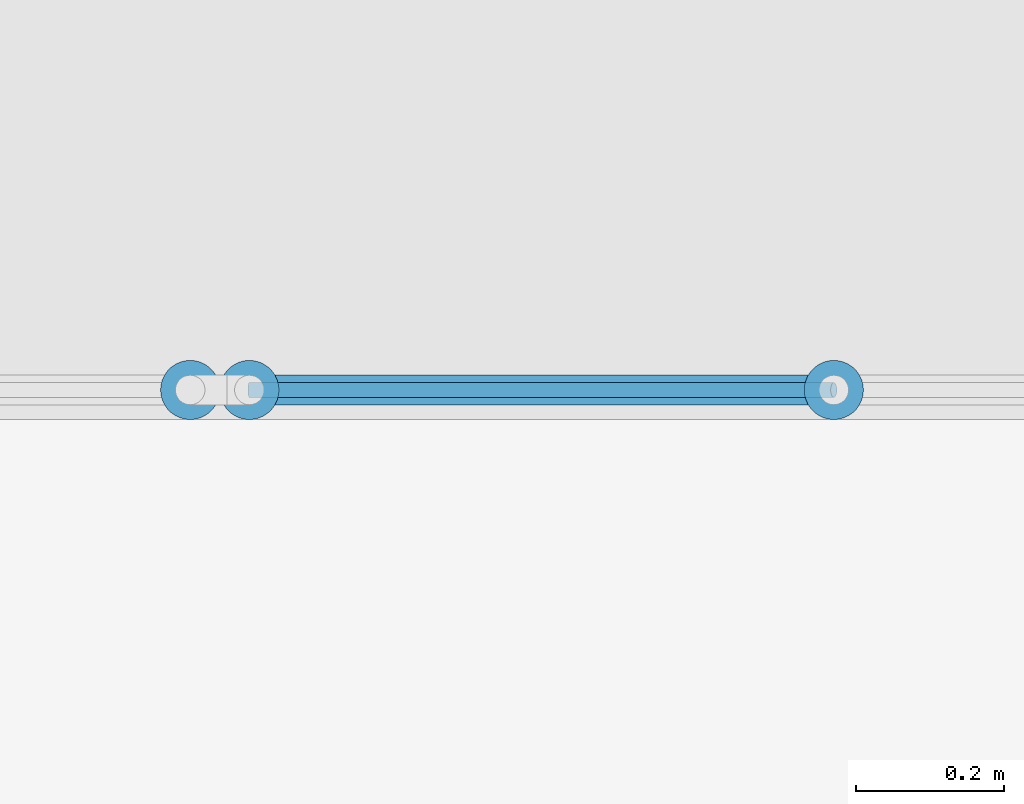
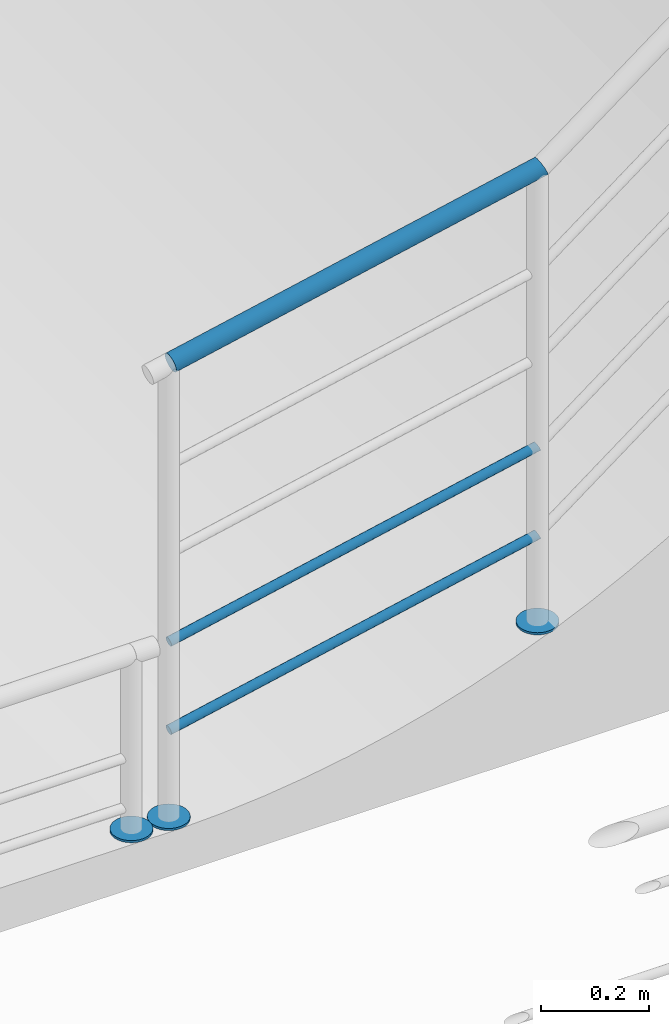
# One storey, part 112 of 237: 6 building element parts, 2 elements without a shape of their own.
"""IFC2X3 building model written with IfcOpenShell, lengths in millimetres."""

from ifc_helpers import new_model, entity, si_unit, converted_unit, derived_unit, money_unit, direction, frame, origin_with_axes, place, context, subcontext, project, spatial, faceted_brep, material, type_object, element, aggregate, save


model = new_model("IFC2X3")

# Units and contexts
model_context = context("Model", 3, precision=0.01, world=origin_with_axes(), true_north=direction((0.0, 1.0)))
body_context = subcontext(model_context, "Body", "Model", "MODEL_VIEW")
ifc_project = project(units=[si_unit("LENGTHUNIT", "METRE", prefix="MILLI"), si_unit("AREAUNIT", "SQUARE_METRE"), si_unit("VOLUMEUNIT", "CUBIC_METRE"), converted_unit("PLANEANGLEUNIT", "DEGREE", entity("IfcPlaneAngleMeasure", 0.0174532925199), si_unit("PLANEANGLEUNIT", "RADIAN"), dimensions=[0, 0, 0, 0, 0, 0, 0]), money_unit("USD"), converted_unit("TIMEUNIT", "Year", entity("IfcTimeMeasure", 31556926.0), si_unit("TIMEUNIT", "SECOND"), dimensions=[0, 0, 1, 0, 0, 0, 0]), si_unit("MASSUNIT", "GRAM", prefix="KILO"), si_unit("THERMODYNAMICTEMPERATUREUNIT", "DEGREE_CELSIUS"), si_unit("LUMINOUSINTENSITYUNIT", "LUMEN"), si_unit("ENERGYUNIT", "JOULE", prefix="MEGA"), derived_unit("THERMALCONDUCTANCEUNIT", [(si_unit("POWERUNIT", "WATT"), 1), (si_unit("LENGTHUNIT", "METRE"), -1), (si_unit("THERMODYNAMICTEMPERATUREUNIT", "KELVIN"), -1)]), derived_unit("SPECIFICHEATCAPACITYUNIT", [(si_unit("ENERGYUNIT", "JOULE"), 1), (si_unit("MASSUNIT", "GRAM", prefix="KILO"), -1), (si_unit("THERMODYNAMICTEMPERATUREUNIT", "KELVIN"), -1)]), derived_unit("MASSDENSITYUNIT", [(si_unit("MASSUNIT", "GRAM", prefix="KILO"), 1), (si_unit("VOLUMEUNIT", "CUBIC_METRE"), -1)])], contexts=[model_context])

# Site, building, storey
site_placement = place(None, origin_with_axes())
site = spatial("IfcSite", under=ifc_project, at=site_placement, Name="Local", CompositionType="ELEMENT")
building_placement = place(site_placement, origin_with_axes())
building = spatial("IfcBuilding", under=site, at=building_placement, Name="Construção", CompositionType="ELEMENT")
storey_placement = place(building_placement, origin_with_axes())
storey = spatial("IfcBuildingStorey", under=building, at=storey_placement, Name="Pavimento Térreo", CompositionType="ELEMENT", Elevation=0.0)

# Railing, building element part
railing_type = type_object("IfcRailingType", Name="Tipo de Guarda-Corpo", PredefinedType="NOTDEFINED")
railing_1_placement = place(storey_placement, frame((58062.4440926, 28006.4497128, -1887.10818411), z_axis=(0.0, 0.0, 1.0), x_axis=(1.0, 0.0, 0.0)))
railing_1 = element("IfcRailing", 1, at=railing_1_placement, inside=storey, type_object=railing_type, Name="Guarda-Corpo - 002", PredefinedType="NOTDEFINED")
ifc_material_1 = material(Name="Alumínio")
building_element_part_1_placement = place(railing_1_placement, origin_with_axes())
building_element_part_1 = element("IfcBuildingElementPart", 2, at=building_element_part_1_placement, material=ifc_material_1, Name="Alumínio", context=body_context, shape_type="Brep", body=[
    faceted_brep([(3550.0, 78.4865411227, 630.0), (3549.39231012, 85.4324682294, 630.0), (3549.39231012, 85.4324682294, 635.0), (3550.0, 78.4865411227, 635.0), (3549.39231012, 71.540614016, 630.0), (3547.58770483, 64.8057353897, 630.0), (3544.64101615, 58.4865411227, 630.0), (3540.64177772, 52.7750367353, 630.0), (3535.71150439, 47.844763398, 630.0), (3530.0, 43.8455249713, 630.0), (3523.68080573, 40.8988362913, 630.0), (3516.94592711, 39.0942310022, 630.0), (3510.0, 38.4865411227, 630.0), (3503.05407289, 39.0942310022, 630.0), (3496.31919427, 40.8988362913, 630.0), (3490.0, 43.8455249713, 630.0), (3484.28849561, 47.844763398, 630.0), (3479.35822228, 52.7750367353, 630.0), (3475.35898385, 58.4865411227, 630.0), (3472.41229517, 64.8057353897, 630.0), (3470.60768988, 71.540614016, 630.0), (3470.0, 78.4865411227, 630.0), (3470.60768988, 85.4324682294, 630.0), (3472.41229517, 92.1673468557, 630.0), (3475.35898385, 98.4865411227, 630.0), (3479.35822228, 104.19804551, 630.0), (3484.28849561, 109.128318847, 630.0), (3490.0, 113.127557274, 630.0), (3496.31919427, 116.074245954, 630.0), (3503.05407289, 117.878851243, 630.0), (3510.0, 118.486541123, 630.0), (3516.94592711, 117.878851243, 630.0), (3523.68080573, 116.074245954, 630.0), (3530.0, 113.127557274, 630.0), (3535.71150439, 109.128318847, 630.0), (3540.64177772, 104.19804551, 630.0), (3544.64101615, 98.4865411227, 630.0), (3547.58770483, 92.1673468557, 630.0), (3547.58770483, 92.1673468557, 635.0), (3544.64101615, 98.4865411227, 635.0), (3540.64177772, 104.19804551, 635.0), (3535.71150439, 109.128318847, 635.0), (3530.0, 113.127557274, 635.0), (3523.68080573, 116.074245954, 635.0), (3516.94592711, 117.878851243, 635.0), (3510.0, 118.486541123, 635.0), (3503.05407289, 117.878851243, 635.0), (3496.31919427, 116.074245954, 635.0), (3490.0, 113.127557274, 635.0), (3484.28849561, 109.128318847, 635.0), (3479.35822228, 104.19804551, 635.0), (3475.35898385, 98.4865411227, 635.0), (3472.41229517, 92.1673468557, 635.0), (3470.60768988, 85.4324682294, 635.0), (3470.0, 78.4865411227, 635.0), (3470.60768988, 71.540614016, 635.0), (3472.41229517, 64.8057353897, 635.0), (3475.35898385, 58.4865411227, 635.0), (3479.35822228, 52.7750367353, 635.0), (3484.28849561, 47.844763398, 635.0), (3490.0, 43.8455249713, 635.0), (3496.31919427, 40.8988362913, 635.0), (3503.05407289, 39.0942310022, 635.0), (3510.0, 38.4865411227, 635.0), (3516.94592711, 39.0942310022, 635.0), (3523.68080573, 40.8988362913, 635.0), (3530.0, 43.8455249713, 635.0), (3535.71150439, 47.844763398, 635.0), (3540.64177772, 52.7750367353, 635.0), (3544.64101615, 58.4865411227, 635.0), (3547.58770483, 64.8057353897, 635.0), (3549.39231012, 71.540614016, 635.0)], [[[0, 1, 2, 3]], [[0, 4, 5, 6, 7, 8, 9, 10, 11, 12, 13, 14, 15, 16, 17, 18, 19, 20, 21, 22, 23, 24, 25, 26, 27, 28, 29, 30, 31, 32, 33, 34, 35, 36, 37, 1]], [[1, 37, 38, 2]], [[3, 2, 38, 39, 40, 41, 42, 43, 44, 45, 46, 47, 48, 49, 50, 51, 52, 53, 54, 55, 56, 57, 58, 59, 60, 61, 62, 63, 64, 65, 66, 67, 68, 69, 70, 71]], [[4, 0, 3, 71]], [[5, 4, 71, 70]], [[6, 5, 70, 69]], [[7, 6, 69, 68]], [[8, 7, 68, 67]], [[9, 8, 67, 66]], [[10, 9, 66, 65]], [[11, 10, 65, 64]], [[12, 11, 64, 63]], [[13, 12, 63, 62]], [[14, 13, 62, 61]], [[15, 14, 61, 60]], [[16, 15, 60, 59]], [[17, 16, 59, 58]], [[18, 17, 58, 57]], [[19, 18, 57, 56]], [[20, 19, 56, 55]], [[21, 20, 55, 54]], [[22, 21, 54, 53]], [[23, 22, 53, 52]], [[24, 23, 52, 51]], [[25, 24, 51, 50]], [[26, 25, 50, 49]], [[27, 26, 49, 48]], [[28, 27, 48, 47]], [[29, 28, 47, 46]], [[30, 29, 46, 45]], [[31, 30, 45, 44]], [[32, 31, 44, 43]], [[33, 32, 43, 42]], [[34, 33, 42, 41]], [[35, 34, 41, 40]], [[36, 35, 40, 39]], [[37, 36, 39, 38]]]),
])
aggregate(railing_1, [building_element_part_1])

# Railing, building element parts
railing_2_placement = place(storey_placement, frame((61612.4440926, 28006.4497128, -1265.99547451), z_axis=(0.0, 0.0, 1.0), x_axis=(-1.0, 0.0, 0.0)))
railing_2 = element("IfcRailing", 3, at=railing_2_placement, inside=storey, type_object=railing_type, Name="Guarda-Corpo - 001", PredefinedType="NOTDEFINED")
building_element_part_2_placement = place(railing_2_placement, origin_with_axes())
building_element_part_2 = element("IfcBuildingElementPart", 4, at=building_element_part_2_placement, material=ifc_material_1, Name="Alumínio", context=body_context, shape_type="Brep", body=[
    faceted_brep([(-80.0, -78.4865411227, 8.44121936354), (-79.3923101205, -85.4324682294, 8.44121936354), (-79.3923101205, -85.4324682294, 13.4412193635), (-80.0, -78.4865411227, 13.4412193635), (-79.3923101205, -71.540614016, 8.44121936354), (-77.5877048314, -64.8057353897, 8.44121936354), (-74.6410161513, -58.4865411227, 8.44121936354), (-70.6417777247, -52.7750367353, 8.44121936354), (-65.7115043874, -47.844763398, 8.44121936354), (-60.0, -43.8455249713, 8.44121936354), (-53.680805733, -40.8988362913, 8.44121936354), (-46.9459271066, -39.0942310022, 8.44121936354), (-40.0, -38.4865411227, 8.44121936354), (-33.0540728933, -39.0942310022, 8.44121936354), (-26.3191942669, -40.8988362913, 8.44121936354), (-20.0, -43.8455249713, 8.44121936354), (-14.2884956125, -47.844763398, 8.44121936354), (-9.35822227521, -52.7750367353, 8.44121936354), (-5.35898384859, -58.4865411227, 8.44121936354), (-2.41229516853, -64.8057353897, 8.44121936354), (-0.60768987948, -71.540614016, 8.44121936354), (0.0, -78.4865411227, 8.44121936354), (-0.60768987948, -85.4324682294, 8.44121936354), (-2.41229516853, -92.1673468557, 8.44121936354), (-5.35898384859, -98.4865411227, 8.44121936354), (-9.35822227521, -104.19804551, 8.44121936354), (-14.2884956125, -109.128318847, 8.44121936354), (-20.0, -113.127557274, 8.44121936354), (-26.3191942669, -116.074245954, 8.44121936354), (-33.0540728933, -117.878851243, 8.44121936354), (-40.0, -118.486541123, 8.44121936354), (-46.9459271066, -117.878851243, 8.44121936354), (-53.680805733, -116.074245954, 8.44121936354), (-60.0, -113.127557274, 8.44121936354), (-65.7115043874, -109.128318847, 8.44121936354), (-70.6417777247, -104.19804551, 8.44121936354), (-74.6410161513, -98.4865411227, 8.44121936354), (-77.5877048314, -92.1673468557, 8.44121936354), (-77.5877048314, -92.1673468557, 13.4412193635), (-74.6410161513, -98.4865411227, 13.4412193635), (-70.6417777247, -104.19804551, 13.4412193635), (-65.7115043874, -109.128318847, 13.4412193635), (-60.0, -113.127557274, 13.4412193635), (-53.680805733, -116.074245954, 13.4412193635), (-46.9459271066, -117.878851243, 13.4412193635), (-40.0, -118.486541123, 13.4412193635), (-33.0540728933, -117.878851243, 13.4412193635), (-26.3191942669, -116.074245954, 13.4412193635), (-20.0, -113.127557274, 13.4412193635), (-14.2884956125, -109.128318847, 13.4412193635), (-9.35822227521, -104.19804551, 13.4412193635), (-5.35898384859, -98.4865411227, 13.4412193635), (-2.41229516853, -92.1673468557, 13.4412193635), (-0.60768987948, -85.4324682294, 13.4412193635), (0.0, -78.4865411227, 13.4412193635), (-0.60768987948, -71.540614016, 13.4412193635), (-2.41229516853, -64.8057353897, 13.4412193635), (-5.35898384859, -58.4865411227, 13.4412193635), (-9.35822227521, -52.7750367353, 13.4412193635), (-14.2884956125, -47.844763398, 13.4412193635), (-20.0, -43.8455249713, 13.4412193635), (-26.3191942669, -40.8988362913, 13.4412193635), (-33.0540728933, -39.0942310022, 13.4412193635), (-40.0, -38.4865411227, 13.4412193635), (-46.9459271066, -39.0942310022, 13.4412193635), (-53.680805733, -40.8988362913, 13.4412193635), (-60.0, -43.8455249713, 13.4412193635), (-65.7115043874, -47.844763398, 13.4412193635), (-70.6417777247, -52.7750367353, 13.4412193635), (-74.6410161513, -58.4865411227, 13.4412193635), (-77.5877048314, -64.8057353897, 13.4412193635), (-79.3923101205, -71.540614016, 13.4412193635)], [[[0, 1, 2, 3]], [[0, 4, 5, 6, 7, 8, 9, 10, 11, 12, 13, 14, 15, 16, 17, 18, 19, 20, 21, 22, 23, 24, 25, 26, 27, 28, 29, 30, 31, 32, 33, 34, 35, 36, 37, 1]], [[1, 37, 38, 2]], [[3, 2, 38, 39, 40, 41, 42, 43, 44, 45, 46, 47, 48, 49, 50, 51, 52, 53, 54, 55, 56, 57, 58, 59, 60, 61, 62, 63, 64, 65, 66, 67, 68, 69, 70, 71]], [[4, 0, 3, 71]], [[5, 4, 71, 70]], [[6, 5, 70, 69]], [[7, 6, 69, 68]], [[8, 7, 68, 67]], [[9, 8, 67, 66]], [[10, 9, 66, 65]], [[11, 10, 65, 64]], [[12, 11, 64, 63]], [[13, 12, 63, 62]], [[14, 13, 62, 61]], [[15, 14, 61, 60]], [[16, 15, 60, 59]], [[17, 16, 59, 58]], [[18, 17, 58, 57]], [[19, 18, 57, 56]], [[20, 19, 56, 55]], [[21, 20, 55, 54]], [[22, 21, 54, 53]], [[23, 22, 53, 52]], [[24, 23, 52, 51]], [[25, 24, 51, 50]], [[26, 25, 50, 49]], [[27, 26, 49, 48]], [[28, 27, 48, 47]], [[29, 28, 47, 46]], [[30, 29, 46, 45]], [[31, 30, 45, 44]], [[32, 31, 44, 43]], [[33, 32, 43, 42]], [[34, 33, 42, 41]], [[35, 34, 41, 40]], [[36, 35, 40, 39]], [[37, 36, 39, 38]]]),
])
building_element_part_3_placement = place(railing_2_placement, origin_with_axes())
building_element_part_3 = element("IfcBuildingElementPart", 5, at=building_element_part_3_placement, material=ifc_material_1, Name="Alumínio", context=body_context, shape_type="Brep", body=[
    faceted_brep([(-869.875144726, -78.4865411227, 175.128953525), (-869.267454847, -85.4324682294, 175.128953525), (-869.267454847, -85.4324682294, 180.128953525), (-869.875144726, -78.4865411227, 180.128953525), (-869.267454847, -71.540614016, 175.128953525), (-867.462849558, -64.8057353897, 175.128953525), (-864.516160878, -58.4865411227, 175.128953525), (-860.516922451, -52.7750367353, 175.128953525), (-855.586649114, -47.844763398, 175.128953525), (-849.875144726, -43.8455249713, 175.128953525), (-843.555950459, -40.8988362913, 175.128953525), (-836.821071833, -39.0942310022, 175.128953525), (-829.875144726, -38.4865411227, 175.128953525), (-822.92921762, -39.0942310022, 175.128953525), (-816.194338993, -40.8988362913, 175.128953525), (-809.875144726, -43.8455249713, 175.128953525), (-804.163640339, -47.844763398, 175.128953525), (-799.233367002, -52.7750367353, 175.128953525), (-795.234128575, -58.4865411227, 175.128953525), (-792.287439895, -64.8057353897, 175.128953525), (-790.482834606, -71.540614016, 175.128953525), (-789.875144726, -78.4865411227, 175.128953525), (-790.482834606, -85.4324682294, 175.128953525), (-792.287439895, -92.1673468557, 175.128953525), (-795.234128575, -98.4865411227, 175.128953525), (-799.233367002, -104.19804551, 175.128953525), (-804.163640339, -109.128318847, 175.128953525), (-809.875144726, -113.127557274, 175.128953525), (-816.194338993, -116.074245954, 175.128953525), (-822.92921762, -117.878851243, 175.128953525), (-829.875144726, -118.486541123, 175.128953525), (-836.821071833, -117.878851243, 175.128953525), (-843.555950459, -116.074245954, 175.128953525), (-849.875144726, -113.127557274, 175.128953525), (-855.586649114, -109.128318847, 175.128953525), (-860.516922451, -104.19804551, 175.128953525), (-864.516160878, -98.4865411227, 175.128953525), (-867.462849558, -92.1673468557, 175.128953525), (-867.462849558, -92.1673468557, 180.128953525), (-864.516160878, -98.4865411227, 180.128953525), (-860.516922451, -104.19804551, 180.128953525), (-855.586649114, -109.128318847, 180.128953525), (-849.875144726, -113.127557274, 180.128953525), (-843.555950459, -116.074245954, 180.128953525), (-836.821071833, -117.878851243, 180.128953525), (-829.875144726, -118.486541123, 180.128953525), (-822.92921762, -117.878851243, 180.128953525), (-816.194338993, -116.074245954, 180.128953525), (-809.875144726, -113.127557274, 180.128953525), (-804.163640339, -109.128318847, 180.128953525), (-799.233367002, -104.19804551, 180.128953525), (-795.234128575, -98.4865411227, 180.128953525), (-792.287439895, -92.1673468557, 180.128953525), (-790.482834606, -85.4324682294, 180.128953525), (-789.875144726, -78.4865411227, 180.128953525), (-790.482834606, -71.540614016, 180.128953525), (-792.287439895, -64.8057353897, 180.128953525), (-795.234128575, -58.4865411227, 180.128953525), (-799.233367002, -52.7750367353, 180.128953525), (-804.163640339, -47.844763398, 180.128953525), (-809.875144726, -43.8455249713, 180.128953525), (-816.194338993, -40.8988362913, 180.128953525), (-822.92921762, -39.0942310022, 180.128953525), (-829.875144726, -38.4865411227, 180.128953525), (-836.821071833, -39.0942310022, 180.128953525), (-843.555950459, -40.8988362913, 180.128953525), (-849.875144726, -43.8455249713, 180.128953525), (-855.586649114, -47.844763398, 180.128953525), (-860.516922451, -52.7750367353, 180.128953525), (-864.516160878, -58.4865411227, 180.128953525), (-867.462849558, -64.8057353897, 180.128953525), (-869.267454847, -71.540614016, 180.128953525)], [[[0, 1, 2, 3]], [[0, 4, 5, 6, 7, 8, 9, 10, 11, 12, 13, 14, 15, 16, 17, 18, 19, 20, 21, 22, 23, 24, 25, 26, 27, 28, 29, 30, 31, 32, 33, 34, 35, 36, 37, 1]], [[1, 37, 38, 2]], [[3, 2, 38, 39, 40, 41, 42, 43, 44, 45, 46, 47, 48, 49, 50, 51, 52, 53, 54, 55, 56, 57, 58, 59, 60, 61, 62, 63, 64, 65, 66, 67, 68, 69, 70, 71]], [[4, 0, 3, 71]], [[5, 4, 71, 70]], [[6, 5, 70, 69]], [[7, 6, 69, 68]], [[8, 7, 68, 67]], [[9, 8, 67, 66]], [[10, 9, 66, 65]], [[11, 10, 65, 64]], [[12, 11, 64, 63]], [[13, 12, 63, 62]], [[14, 13, 62, 61]], [[15, 14, 61, 60]], [[16, 15, 60, 59]], [[17, 16, 59, 58]], [[18, 17, 58, 57]], [[19, 18, 57, 56]], [[20, 19, 56, 55]], [[21, 20, 55, 54]], [[22, 21, 54, 53]], [[23, 22, 53, 52]], [[24, 23, 52, 51]], [[25, 24, 51, 50]], [[26, 25, 50, 49]], [[27, 26, 49, 48]], [[28, 27, 48, 47]], [[29, 28, 47, 46]], [[30, 29, 46, 45]], [[31, 30, 45, 44]], [[32, 31, 44, 43]], [[33, 32, 43, 42]], [[34, 33, 42, 41]], [[35, 34, 41, 40]], [[36, 35, 40, 39]], [[37, 36, 39, 38]]]),
])
ifc_material_2 = material(Name="Aço - Inoxidável")
building_element_part_4_placement = place(railing_2_placement, origin_with_axes())
building_element_part_4 = element("IfcBuildingElementPart", 6, at=building_element_part_4_placement, material=ifc_material_2, Name="Aço - Inoxidável", context=body_context, shape_type="Brep", body=[
    faceted_brep([(-44.1296564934, -98.4865411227, 1038.87221486), (-43.4125491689, -98.182696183, 1042.27033683), (-836.892776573, -98.182696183, 1209.71885333), (-838.367449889, -98.4865411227, 1206.48060088), (-44.8467638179, -98.182696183, 1035.47409289), (-45.5420821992, -97.2803935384, 1032.17922114), (-46.1944847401, -95.8070491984, 1029.08771261), (-46.7841485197, -93.8074299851, 1026.29350123), (-47.2931569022, -91.3422933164, 1023.8814877), (-47.7060439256, -88.4865411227, 1021.92495983), (-48.0102642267, -85.3269439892, 1020.48336573), (-48.1965742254, -81.9595046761, 1019.60050751), (-48.2593129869, -78.4865411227, 1019.30321036), (-48.1965742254, -75.0135775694, 1019.60050751), (-48.0102642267, -71.6461382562, 1020.48336573), (-47.7060439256, -68.4865411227, 1021.92495983), (-47.2931569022, -65.630788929, 1023.8814877), (-46.7841485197, -63.1656522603, 1026.29350123), (-46.1944847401, -61.166033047, 1029.08771261), (-45.5420821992, -59.692688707, 1032.17922114), (-44.8467638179, -58.7903860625, 1035.47409289), (-44.1296564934, -58.4865411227, 1038.87221486), (-43.4125491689, -58.7903860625, 1042.27033683), (-42.7172307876, -59.692688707, 1045.56520859), (-42.0648282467, -61.166033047, 1048.65671711), (-41.4751644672, -63.1656522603, 1051.45092849), (-40.9661560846, -65.630788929, 1053.86294202), (-40.5532690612, -68.4865411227, 1055.81946989), (-40.2490487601, -71.6461382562, 1057.26106399), (-40.0627387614, -75.0135775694, 1058.14392221), (-40.0, -78.4865411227, 1058.44121936), (-40.0627387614, -81.9595046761, 1058.14392221), (-40.2490487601, -85.3269439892, 1057.26106399), (-40.5532690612, -88.4865411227, 1055.81946989), (-40.9661560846, -91.3422933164, 1053.86294202), (-41.4751644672, -93.8074299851, 1051.45092849), (-42.0648282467, -95.8070491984, 1048.65671711), (-42.7172307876, -97.2803935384, 1045.56520859), (-835.46291046, -97.2803935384, 1212.85871313), (-834.121297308, -95.8070491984, 1215.8047772), (-832.908701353, -93.8074299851, 1218.4675309), (-831.86196671, -91.3422933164, 1220.7660678), (-831.012897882, -88.4865411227, 1222.63054801), (-830.387293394, -85.3269439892, 1224.00432025), (-830.004161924, -81.9595046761, 1224.84564315), (-829.875144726, -78.4865411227, 1225.12895352), (-830.004161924, -75.0135775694, 1224.84564315), (-830.387293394, -71.6461382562, 1224.00432025), (-831.012897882, -68.4865411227, 1222.63054801), (-831.86196671, -65.630788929, 1220.7660678), (-832.908701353, -63.1656522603, 1218.4675309), (-834.121297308, -61.166033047, 1215.8047772), (-835.46291046, -59.692688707, 1212.85871313), (-836.892776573, -58.7903860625, 1209.71885333), (-838.367449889, -58.4865411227, 1206.48060088), (-839.842123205, -58.7903860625, 1203.24234843), (-841.271989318, -59.692688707, 1200.10248864), (-842.61360247, -61.166033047, 1197.15642456), (-843.826198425, -63.1656522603, 1194.49367086), (-844.872933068, -65.630788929, 1192.19513397), (-845.722001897, -68.4865411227, 1190.33065375), (-846.347606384, -71.6461382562, 1188.95688151), (-846.730737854, -75.0135775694, 1188.11555862), (-846.859755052, -78.4865411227, 1187.83224824), (-846.730737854, -81.9595046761, 1188.11555862), (-846.347606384, -85.3269439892, 1188.95688151), (-845.722001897, -88.4865411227, 1190.33065375), (-844.872933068, -91.3422933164, 1192.19513397), (-843.826198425, -93.8074299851, 1194.49367086), (-842.61360247, -95.8070491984, 1197.15642456), (-841.271989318, -97.2803935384, 1200.10248864), (-839.842123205, -98.182696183, 1203.24234843)], [[[0, 1, 2, 3]], [[0, 4, 5, 6, 7, 8, 9, 10, 11, 12, 13, 14, 15, 16, 17, 18, 19, 20, 21, 22, 23, 24, 25, 26, 27, 28, 29, 30, 31, 32, 33, 34, 35, 36, 37, 1]], [[1, 37, 38, 2]], [[3, 2, 38, 39, 40, 41, 42, 43, 44, 45, 46, 47, 48, 49, 50, 51, 52, 53, 54, 55, 56, 57, 58, 59, 60, 61, 62, 63, 64, 65, 66, 67, 68, 69, 70, 71]], [[4, 0, 3, 71]], [[5, 4, 71, 70]], [[6, 5, 70, 69]], [[7, 6, 69, 68]], [[8, 7, 68, 67]], [[9, 8, 67, 66]], [[10, 9, 66, 65]], [[11, 10, 65, 64]], [[12, 11, 64, 63]], [[13, 12, 63, 62]], [[14, 13, 62, 61]], [[15, 14, 61, 60]], [[16, 15, 60, 59]], [[17, 16, 59, 58]], [[18, 17, 58, 57]], [[19, 18, 57, 56]], [[20, 19, 56, 55]], [[21, 20, 55, 54]], [[22, 21, 54, 53]], [[23, 22, 53, 52]], [[24, 23, 52, 51]], [[25, 24, 51, 50]], [[26, 25, 50, 49]], [[27, 26, 49, 48]], [[28, 27, 48, 47]], [[29, 28, 47, 46]], [[30, 29, 46, 45]], [[31, 30, 45, 44]], [[32, 31, 44, 43]], [[33, 32, 43, 42]], [[34, 33, 42, 41]], [[35, 34, 41, 40]], [[36, 35, 40, 39]], [[37, 36, 39, 38]]]),
])
building_element_part_5_placement = place(railing_2_placement, origin_with_axes())
building_element_part_5 = element("IfcBuildingElementPart", 7, at=building_element_part_5_placement, material=ifc_material_2, Name="Aço - Inoxidável", context=body_context, shape_type="Brep", body=[
    faceted_brep([(-40.0, -88.4865411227, 208.441219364), (-39.6414463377, -88.3346186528, 210.140280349), (-829.137808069, -88.3346186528, 376.748079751), (-829.875144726, -88.4865411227, 375.128953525), (-40.3585536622, -88.3346186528, 206.742158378), (-40.7062128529, -87.8834673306, 205.094722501), (-41.0324141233, -87.1467951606, 203.548968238), (-41.3272460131, -86.1469855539, 202.151862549), (-41.5817502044, -84.9144172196, 200.945855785), (-41.7881937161, -83.4865411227, 199.96759185), (-41.9403038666, -81.906742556, 199.2467948), (-42.033458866, -80.2230228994, 198.805365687), (-42.0648282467, -78.4865411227, 198.656717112), (-42.033458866, -76.7500593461, 198.805365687), (-41.9403038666, -75.0663396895, 199.2467948), (-41.7881937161, -73.4865411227, 199.96759185), (-41.5817502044, -72.0586650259, 200.945855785), (-41.3272460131, -70.8260966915, 202.151862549), (-41.0324141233, -69.8262870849, 203.548968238), (-40.7062128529, -69.0896149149, 205.094722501), (-40.3585536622, -68.6384635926, 206.742158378), (-40.0, -68.4865411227, 208.441219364), (-39.6414463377, -68.6384635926, 210.140280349), (-39.2937871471, -69.0896149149, 211.787716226), (-38.9675858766, -69.8262870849, 213.333470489), (-38.6727539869, -70.8260966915, 214.730576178), (-38.4182497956, -72.0586650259, 215.936582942), (-38.2118062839, -73.4865411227, 216.914846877), (-38.0596961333, -75.0663396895, 217.635643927), (-37.966541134, -76.7500593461, 218.07707304), (-37.9351717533, -78.4865411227, 218.225721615), (-37.966541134, -80.2230228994, 218.07707304), (-38.0596961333, -81.906742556, 217.635643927), (-38.2118062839, -83.4865411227, 216.914846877), (-38.4182497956, -84.9144172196, 215.936582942), (-38.6727539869, -86.1469855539, 214.730576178), (-38.9675858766, -87.1467951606, 213.333470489), (-39.2937871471, -87.8834673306, 211.787716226), (-828.422875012, -87.8834673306, 378.318009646), (-827.752068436, -87.1467951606, 379.791041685), (-827.145770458, -86.1469855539, 381.122418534), (-826.622403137, -84.9144172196, 382.271686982), (-826.197868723, -83.4865411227, 383.203927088), (-825.885066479, -81.906742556, 383.890813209), (-825.693500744, -80.2230228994, 384.311474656), (-825.628992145, -78.4865411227, 384.453129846), (-825.693500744, -76.7500593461, 384.311474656), (-825.885066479, -75.0663396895, 383.890813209), (-826.197868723, -73.4865411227, 383.203927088), (-826.622403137, -72.0586650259, 382.271686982), (-827.145770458, -70.8260966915, 381.122418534), (-827.752068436, -69.8262870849, 379.791041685), (-828.422875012, -69.0896149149, 378.318009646), (-829.137808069, -68.6384635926, 376.748079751), (-829.875144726, -68.4865411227, 375.128953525), (-830.612481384, -68.6384635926, 373.509827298), (-831.327414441, -69.0896149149, 371.939897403), (-831.998221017, -69.8262870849, 370.466865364), (-832.604518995, -70.8260966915, 369.135488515), (-833.127886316, -72.0586650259, 367.986220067), (-833.55242073, -73.4865411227, 367.053979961), (-833.865222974, -75.0663396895, 366.367093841), (-834.056788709, -76.7500593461, 365.946432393), (-834.121297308, -78.4865411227, 365.804777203), (-834.056788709, -80.2230228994, 365.946432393), (-833.865222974, -81.906742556, 366.367093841), (-833.55242073, -83.4865411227, 367.053979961), (-833.127886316, -84.9144172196, 367.986220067), (-832.604518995, -86.1469855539, 369.135488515), (-831.998221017, -87.1467951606, 370.466865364), (-831.327414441, -87.8834673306, 371.939897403), (-830.612481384, -88.3346186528, 373.509827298)], [[[0, 1, 2, 3]], [[0, 4, 5, 6, 7, 8, 9, 10, 11, 12, 13, 14, 15, 16, 17, 18, 19, 20, 21, 22, 23, 24, 25, 26, 27, 28, 29, 30, 31, 32, 33, 34, 35, 36, 37, 1]], [[1, 37, 38, 2]], [[3, 2, 38, 39, 40, 41, 42, 43, 44, 45, 46, 47, 48, 49, 50, 51, 52, 53, 54, 55, 56, 57, 58, 59, 60, 61, 62, 63, 64, 65, 66, 67, 68, 69, 70, 71]], [[4, 0, 3, 71]], [[5, 4, 71, 70]], [[6, 5, 70, 69]], [[7, 6, 69, 68]], [[8, 7, 68, 67]], [[9, 8, 67, 66]], [[10, 9, 66, 65]], [[11, 10, 65, 64]], [[12, 11, 64, 63]], [[13, 12, 63, 62]], [[14, 13, 62, 61]], [[15, 14, 61, 60]], [[16, 15, 60, 59]], [[17, 16, 59, 58]], [[18, 17, 58, 57]], [[19, 18, 57, 56]], [[20, 19, 56, 55]], [[21, 20, 55, 54]], [[22, 21, 54, 53]], [[23, 22, 53, 52]], [[24, 23, 52, 51]], [[25, 24, 51, 50]], [[26, 25, 50, 49]], [[27, 26, 49, 48]], [[28, 27, 48, 47]], [[29, 28, 47, 46]], [[30, 29, 46, 45]], [[31, 30, 45, 44]], [[32, 31, 44, 43]], [[33, 32, 43, 42]], [[34, 33, 42, 41]], [[35, 34, 41, 40]], [[36, 35, 40, 39]], [[37, 36, 39, 38]]]),
])
building_element_part_6_placement = place(railing_2_placement, origin_with_axes())
building_element_part_6 = element("IfcBuildingElementPart", 8, at=building_element_part_6_placement, material=ifc_material_2, Name="Aço - Inoxidável", context=body_context, shape_type="Brep", body=[
    faceted_brep([(-40.0, -88.4865411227, 408.441219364), (-39.6414463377, -88.3346186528, 410.140280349), (-829.137808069, -88.3346186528, 576.748079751), (-829.875144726, -88.4865411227, 575.128953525), (-40.3585536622, -88.3346186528, 406.742158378), (-40.7062128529, -87.8834673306, 405.094722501), (-41.0324141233, -87.1467951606, 403.548968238), (-41.3272460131, -86.1469855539, 402.151862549), (-41.5817502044, -84.9144172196, 400.945855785), (-41.7881937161, -83.4865411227, 399.96759185), (-41.9403038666, -81.906742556, 399.2467948), (-42.033458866, -80.2230228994, 398.805365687), (-42.0648282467, -78.4865411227, 398.656717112), (-42.033458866, -76.7500593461, 398.805365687), (-41.9403038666, -75.0663396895, 399.2467948), (-41.7881937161, -73.4865411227, 399.96759185), (-41.5817502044, -72.0586650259, 400.945855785), (-41.3272460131, -70.8260966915, 402.151862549), (-41.0324141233, -69.8262870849, 403.548968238), (-40.7062128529, -69.0896149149, 405.094722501), (-40.3585536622, -68.6384635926, 406.742158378), (-40.0, -68.4865411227, 408.441219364), (-39.6414463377, -68.6384635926, 410.140280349), (-39.2937871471, -69.0896149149, 411.787716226), (-38.9675858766, -69.8262870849, 413.333470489), (-38.6727539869, -70.8260966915, 414.730576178), (-38.4182497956, -72.0586650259, 415.936582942), (-38.2118062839, -73.4865411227, 416.914846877), (-38.0596961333, -75.0663396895, 417.635643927), (-37.966541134, -76.7500593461, 418.07707304), (-37.9351717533, -78.4865411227, 418.225721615), (-37.966541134, -80.2230228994, 418.07707304), (-38.0596961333, -81.906742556, 417.635643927), (-38.2118062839, -83.4865411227, 416.914846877), (-38.4182497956, -84.9144172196, 415.936582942), (-38.6727539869, -86.1469855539, 414.730576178), (-38.9675858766, -87.1467951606, 413.333470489), (-39.2937871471, -87.8834673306, 411.787716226), (-828.422875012, -87.8834673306, 578.318009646), (-827.752068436, -87.1467951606, 579.791041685), (-827.145770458, -86.1469855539, 581.122418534), (-826.622403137, -84.9144172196, 582.271686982), (-826.197868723, -83.4865411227, 583.203927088), (-825.885066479, -81.906742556, 583.890813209), (-825.693500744, -80.2230228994, 584.311474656), (-825.628992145, -78.4865411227, 584.453129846), (-825.693500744, -76.7500593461, 584.311474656), (-825.885066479, -75.0663396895, 583.890813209), (-826.197868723, -73.4865411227, 583.203927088), (-826.622403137, -72.0586650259, 582.271686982), (-827.145770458, -70.8260966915, 581.122418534), (-827.752068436, -69.8262870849, 579.791041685), (-828.422875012, -69.0896149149, 578.318009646), (-829.137808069, -68.6384635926, 576.748079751), (-829.875144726, -68.4865411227, 575.128953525), (-830.612481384, -68.6384635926, 573.509827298), (-831.327414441, -69.0896149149, 571.939897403), (-831.998221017, -69.8262870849, 570.466865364), (-832.604518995, -70.8260966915, 569.135488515), (-833.127886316, -72.0586650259, 567.986220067), (-833.55242073, -73.4865411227, 567.053979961), (-833.865222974, -75.0663396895, 566.367093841), (-834.056788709, -76.7500593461, 565.946432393), (-834.121297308, -78.4865411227, 565.804777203), (-834.056788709, -80.2230228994, 565.946432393), (-833.865222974, -81.906742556, 566.367093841), (-833.55242073, -83.4865411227, 567.053979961), (-833.127886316, -84.9144172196, 567.986220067), (-832.604518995, -86.1469855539, 569.135488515), (-831.998221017, -87.1467951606, 570.466865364), (-831.327414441, -87.8834673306, 571.939897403), (-830.612481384, -88.3346186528, 573.509827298)], [[[0, 1, 2, 3]], [[0, 4, 5, 6, 7, 8, 9, 10, 11, 12, 13, 14, 15, 16, 17, 18, 19, 20, 21, 22, 23, 24, 25, 26, 27, 28, 29, 30, 31, 32, 33, 34, 35, 36, 37, 1]], [[1, 37, 38, 2]], [[3, 2, 38, 39, 40, 41, 42, 43, 44, 45, 46, 47, 48, 49, 50, 51, 52, 53, 54, 55, 56, 57, 58, 59, 60, 61, 62, 63, 64, 65, 66, 67, 68, 69, 70, 71]], [[4, 0, 3, 71]], [[5, 4, 71, 70]], [[6, 5, 70, 69]], [[7, 6, 69, 68]], [[8, 7, 68, 67]], [[9, 8, 67, 66]], [[10, 9, 66, 65]], [[11, 10, 65, 64]], [[12, 11, 64, 63]], [[13, 12, 63, 62]], [[14, 13, 62, 61]], [[15, 14, 61, 60]], [[16, 15, 60, 59]], [[17, 16, 59, 58]], [[18, 17, 58, 57]], [[19, 18, 57, 56]], [[20, 19, 56, 55]], [[21, 20, 55, 54]], [[22, 21, 54, 53]], [[23, 22, 53, 52]], [[24, 23, 52, 51]], [[25, 24, 51, 50]], [[26, 25, 50, 49]], [[27, 26, 49, 48]], [[28, 27, 48, 47]], [[29, 28, 47, 46]], [[30, 29, 46, 45]], [[31, 30, 45, 44]], [[32, 31, 44, 43]], [[33, 32, 43, 42]], [[34, 33, 42, 41]], [[35, 34, 41, 40]], [[36, 35, 40, 39]], [[37, 36, 39, 38]]]),
])
aggregate(railing_2, [building_element_part_2, building_element_part_3, building_element_part_4, building_element_part_5, building_element_part_6])

save(model, "model.ifc")
